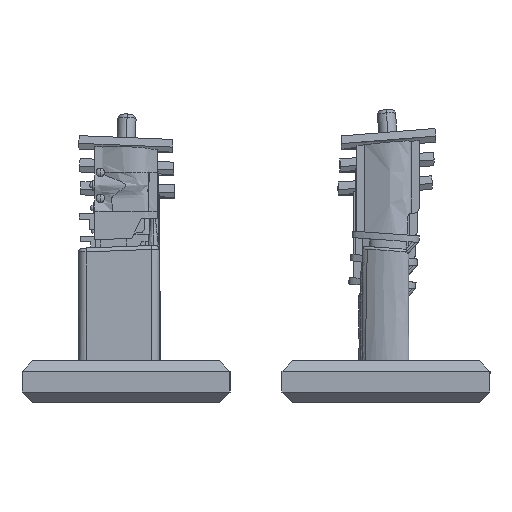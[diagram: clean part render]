
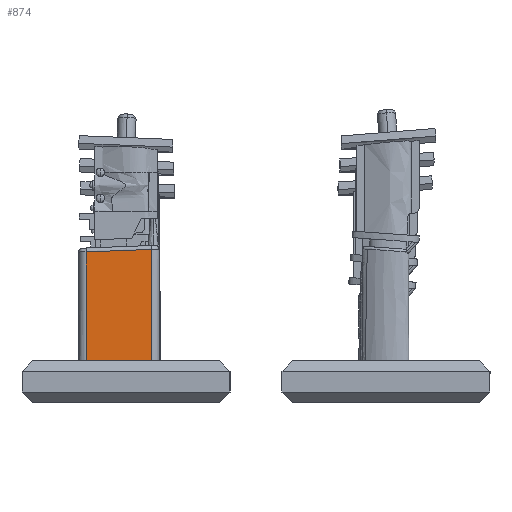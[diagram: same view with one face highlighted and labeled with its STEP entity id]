
A CAD part, left-side view. The second image highlights one B-rep face of the part: STEP entity #874.
In plain terms, the highlighted planar face has unit normal (-1, 0, 0).
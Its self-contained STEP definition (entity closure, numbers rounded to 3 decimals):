
#874=ADVANCED_FACE('',(#1686),#13418,.T.);
#1686=FACE_OUTER_BOUND('',#2574,.T.);
#2574=EDGE_LOOP('',(#6786,#6787,#6788,#6789));
#6786=ORIENTED_EDGE('',*,*,#8989,.F.);
#6787=ORIENTED_EDGE('',*,*,#8929,.T.);
#6788=ORIENTED_EDGE('',*,*,#8990,.T.);
#6789=ORIENTED_EDGE('',*,*,#8997,.F.);
#8929=EDGE_CURVE('',#12528,#12529,#9849,.T.);
#8989=EDGE_CURVE('',#12528,#12571,#9876,.T.);
#8990=EDGE_CURVE('',#12529,#12572,#9877,.T.);
#8997=EDGE_CURVE('',#12571,#12572,#9883,.T.);
#9849=(
BOUNDED_CURVE()
B_SPLINE_CURVE(1,(#65980,#65981),.UNSPECIFIED.,.F.,.F.)
B_SPLINE_CURVE_WITH_KNOTS((2,2),(0.006,2.508),
 .UNSPECIFIED.)
CURVE()
GEOMETRIC_REPRESENTATION_ITEM()
RATIONAL_B_SPLINE_CURVE((1.,1.))
REPRESENTATION_ITEM('')
);
#9876=(
BOUNDED_CURVE()
B_SPLINE_CURVE(1,(#66257,#66258),.UNSPECIFIED.,.F.,.F.)
B_SPLINE_CURVE_WITH_KNOTS((2,2),(0.871,3.885),
 .UNSPECIFIED.)
CURVE()
GEOMETRIC_REPRESENTATION_ITEM()
RATIONAL_B_SPLINE_CURVE((1.,1.))
REPRESENTATION_ITEM('')
);
#9877=(
BOUNDED_CURVE()
B_SPLINE_CURVE(1,(#66259,#66260),.UNSPECIFIED.,.F.,.F.)
B_SPLINE_CURVE_WITH_KNOTS((2,2),(0.966,3.375),
 .UNSPECIFIED.)
CURVE()
GEOMETRIC_REPRESENTATION_ITEM()
RATIONAL_B_SPLINE_CURVE((1.,1.))
REPRESENTATION_ITEM('')
);
#9883=(
BOUNDED_CURVE()
B_SPLINE_CURVE(2,(#66276,#66277,#66278),.UNSPECIFIED.,.F.,.F.)
B_SPLINE_CURVE_WITH_KNOTS((3,3),(7.914,10.414),
 .UNSPECIFIED.)
CURVE()
GEOMETRIC_REPRESENTATION_ITEM()
RATIONAL_B_SPLINE_CURVE((1.,1.,1.))
REPRESENTATION_ITEM('')
);
#12528=VERTEX_POINT('',#63430);
#12529=VERTEX_POINT('',#63431);
#12571=VERTEX_POINT('',#63473);
#12572=VERTEX_POINT('',#63474);
#13418=PLANE('',#13944);
#13944=AXIS2_PLACEMENT_3D('',#62430,#14393,$);
#14393=DIRECTION('',(-1.,0.,0.));
#62430=CARTESIAN_POINT('',(-16.163,4.031,5.884));
#63430=CARTESIAN_POINT('',(-16.163,4.031,5.884));
#63431=CARTESIAN_POINT('',(-16.163,6.531,5.789));
#63473=CARTESIAN_POINT('',(-16.163,4.031,1.6));
#63474=CARTESIAN_POINT('',(-16.163,6.531,1.6));
#65980=CARTESIAN_POINT('',(-16.163,4.031,5.884));
#65981=CARTESIAN_POINT('',(-16.163,6.531,5.789));
#66257=CARTESIAN_POINT('',(-16.163,4.031,5.884));
#66258=CARTESIAN_POINT('',(-16.163,4.031,1.6));
#66259=CARTESIAN_POINT('',(-16.163,6.531,5.789));
#66260=CARTESIAN_POINT('',(-16.163,6.531,1.6));
#66276=CARTESIAN_POINT('',(-16.163,4.031,1.6));
#66277=CARTESIAN_POINT('',(-16.163,5.281,1.6));
#66278=CARTESIAN_POINT('',(-16.163,6.531,1.6));
